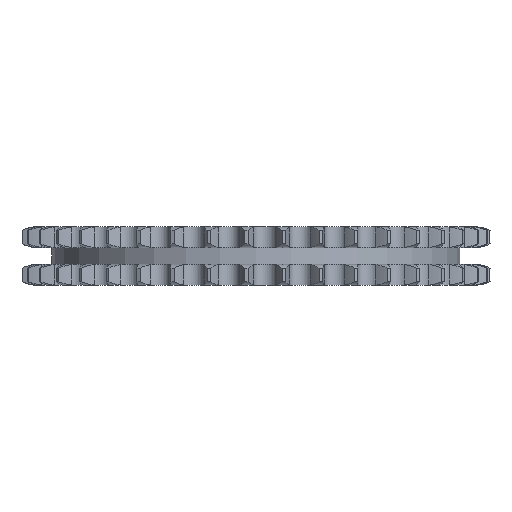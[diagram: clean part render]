
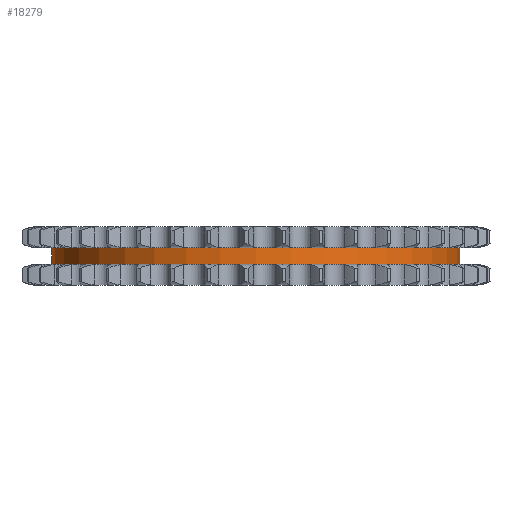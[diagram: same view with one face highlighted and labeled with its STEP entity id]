
A CAD part, left-side view. The second image highlights one B-rep face of the part: STEP entity #18279.
In plain terms, the highlighted cylindrical face has radius 88.644 mm (diameter 177.287 mm), a partial arc.
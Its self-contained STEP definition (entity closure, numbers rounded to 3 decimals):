
#3724=DIRECTION('',(0.,0.,-1.));
#3725=VECTOR('',#3724,7.3);
#3726=CARTESIAN_POINT('',(0.,88.643,3.65));
#3727=LINE('',#3726,#3725);
#3731=CARTESIAN_POINT('',(0.,0.,3.65));
#3732=DIRECTION('',(0.,0.,1.));
#3733=DIRECTION('',(0.,1.,0.));
#3734=AXIS2_PLACEMENT_3D('',#3731,#3732,#3733);
#3739=DIRECTION('',(0.,0.,-1.));
#3740=VECTOR('',#3739,7.3);
#3741=CARTESIAN_POINT('',(0.,-88.643,3.65));
#3742=LINE('',#3741,#3740);
#3746=CARTESIAN_POINT('',(0.,0.,-3.65));
#3747=DIRECTION('',(0.,0.,1.));
#3748=DIRECTION('',(0.,1.,0.));
#3749=AXIS2_PLACEMENT_3D('',#3746,#3747,#3748);
#14308=CARTESIAN_POINT('',(0.,88.643,3.65));
#14309=CARTESIAN_POINT('',(0.,88.643,-3.65));
#14310=VERTEX_POINT('',#14308);
#14311=VERTEX_POINT('',#14309);
#14312=CARTESIAN_POINT('',(0.,-88.643,3.65));
#14313=CARTESIAN_POINT('',(0.,-88.643,-3.65));
#14314=VERTEX_POINT('',#14312);
#14315=VERTEX_POINT('',#14313);
#18267=CARTESIAN_POINT('',(0.,0.,4.015));
#18268=DIRECTION('',(0.,0.,-1.));
#18269=DIRECTION('',(0.,-1.,0.));
#18270=AXIS2_PLACEMENT_3D('',#18267,#18268,#18269);
#18271=CYLINDRICAL_SURFACE('',#18270,88.643);
#18272=ORIENTED_EDGE('',*,*,#18257,.F.);
#18273=ORIENTED_EDGE('',*,*,#18247,.T.);
#18274=ORIENTED_EDGE('',*,*,#18261,.T.);
#18276=ORIENTED_EDGE('',*,*,#18275,.F.);
#18277=EDGE_LOOP('',(#18272,#18273,#18274,#18276));
#18278=FACE_OUTER_BOUND('',#18277,.F.);
#18279=ADVANCED_FACE('',(#18278),#18271,.T.);
#3735=CIRCLE('',#3734,88.643);
#3750=CIRCLE('',#3749,88.643);
#18247=EDGE_CURVE('',#14310,#14314,#3735,.T.);
#18257=EDGE_CURVE('',#14310,#14311,#3727,.T.);
#18261=EDGE_CURVE('',#14314,#14315,#3742,.T.);
#18275=EDGE_CURVE('',#14311,#14315,#3750,.T.);
